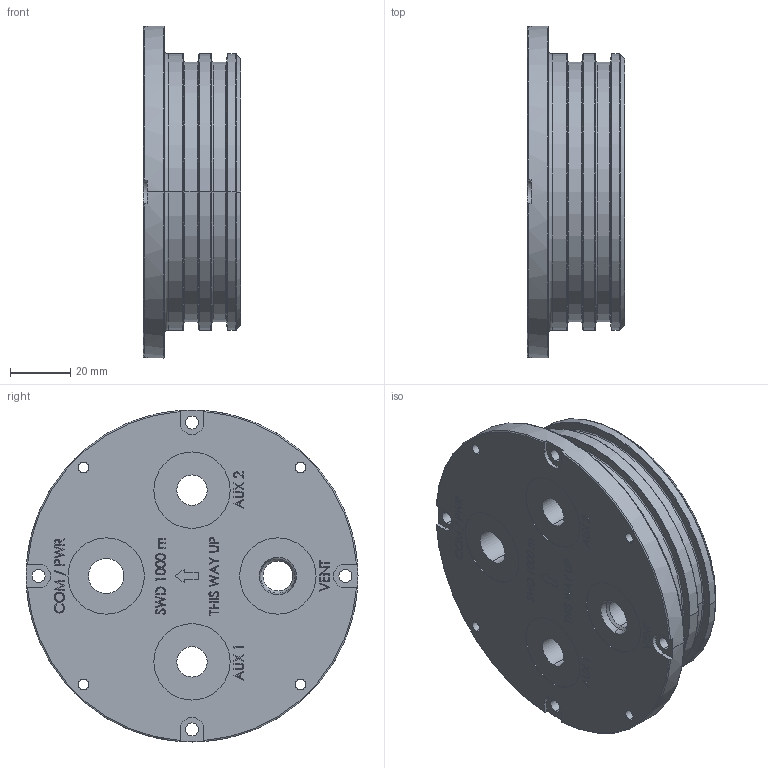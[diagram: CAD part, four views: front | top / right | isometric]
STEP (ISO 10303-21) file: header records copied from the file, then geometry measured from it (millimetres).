
FILE_DESCRIPTION (( 'STEP AP203' ), '1' );
FILE_NAME ('100221989-1 Housing A Connector Endcap, Double Aux_B.STEP', '2023-09-19T18:44:50', ( '' ), ( '' ), 'SwSTEP 2.0', 'SolidWorks 2023', '' );
FILE_SCHEMA (( 'CONFIG_CONTROL_DESIGN' ));
Length unit declared in the file: inch
Products named in the file (1): 100221989-1 Housing A Connector Endcap, Double Aux_B
Bounding box: 32.38 x 110.49 x 110.49 mm (x, y, z)
Volume: 152851.9 mm3; surface area: 36703.2 mm2
Topology: 1 solids, 1 shells, 595 faces, 1561 edges, 1018 vertices
Faces by surface type: plane 344, bspline 134, cylinder 59, cone 30, torus 28
Entity records: 26656 total; most frequent: CARTESIAN_POINT 12943, ORIENTED_EDGE 3106, DIRECTION 2258, EDGE_CURVE 1553, VERTEX_POINT 1018, VECTOR 938, LINE 938, EDGE_LOOP 677
